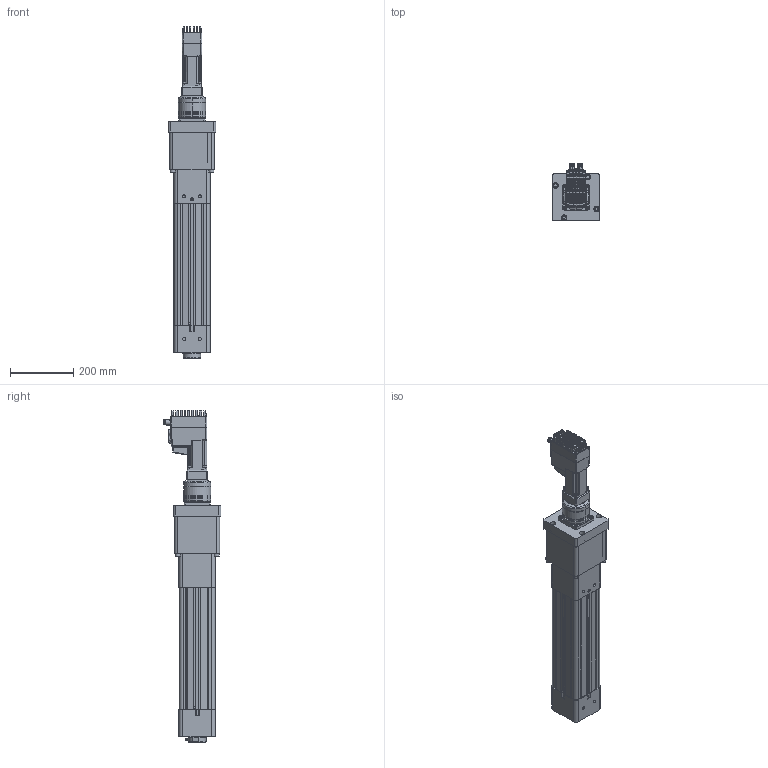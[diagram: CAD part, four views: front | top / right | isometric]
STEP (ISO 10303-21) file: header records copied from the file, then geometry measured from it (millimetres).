
FILE_DESCRIPTION (( 'STEP AP203' ), '1' );
FILE_NAME ('RSA64_RN10_SK10.000_RS-472718-1.step', '2024-10-22T15:22:10', ( '' ), ( '' ), 'SwSTEP 2.0', 'SolidWorks 2024', '' );
FILE_SCHEMA (( 'CONFIG_CONTROL_DESIGN' ));
Length unit declared in the file: inch
Products named in the file (4): tempJoin0_36049144_RSA64_RN10_SK10.000_RS-472718-1; RSA64_RN10_SK10.000_RS-472718-1; Base_RSA64_RN10_SK10.000_RS-472718-1; tempJoin0_11649302_RSA64_RN10_SK10.000_RS-472718-1
Assembly tree (3 placements, depth 2):
  RSA64_RN10_SK10.000_RS-472718-1
    tempJoin0_11649302_RSA64_RN10_SK10.000_RS-472718-1
    tempJoin0_36049144_RSA64_RN10_SK10.000_RS-472718-1
    Base_RSA64_RN10_SK10.000_RS-472718-1
Bounding box: 149.86 x 182.6 x 1052.53 mm (x, y, z)
Volume: 9689906 mm3; surface area: 1073561.9 mm2
Topology: 8 solids, 40 shells, 3495 faces, 8262 edges, 4922 vertices
Faces by surface type: plane 1268, cylinder 1193, bspline 801, cone 167, torus 66
Full cylindrical faces by diameter (mm): 0.7 x17, 0.9 x4, 1 x9, 1.2 x8, 1.6 x12, 1.65 x4, 1.7 x4, 1.8 x4, 2.013 x2, 2.5 x16, 2.6 x8, 3.1 x5, 4.2 x4, 4.201 x4, 4.4 x8, 4.5 x2, 5 x9, 5.001 x4, 5.2 x2, 5.41 x1, 5.5 x10, 6.35 x2, 8.5 x8, 8.8 x4, 9 x1, 9.347 x8, 9.525 x2, 10 x10, 10.312 x2, 10.5 x1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
Entity records: 131160 total; most frequent: CARTESIAN_POINT 60214, ORIENTED_EDGE 15076, DIRECTION 13099, EDGE_CURVE 7538, AXIS2_PLACEMENT_3D 5030, VERTEX_POINT 4771, EDGE_LOOP 4229, FACE_OUTER_BOUND 3799
